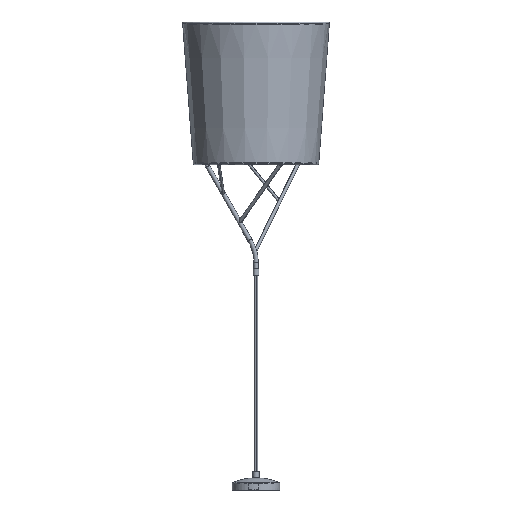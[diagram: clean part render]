
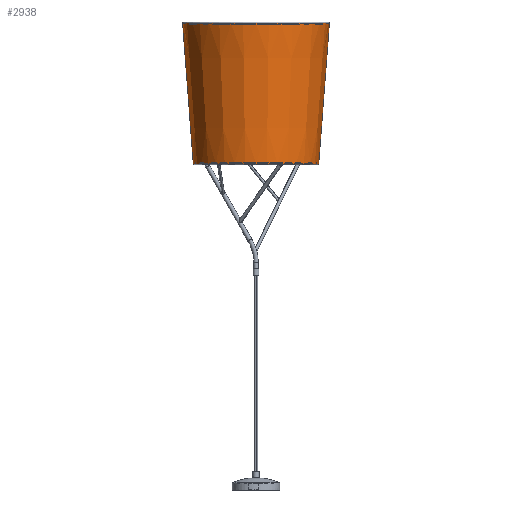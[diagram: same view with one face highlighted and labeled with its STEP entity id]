
A CAD part, left-side view. The second image highlights one B-rep face of the part: STEP entity #2938.
In plain terms, the highlighted conical face has half-angle 4.337 degrees and reference radius 147.635 mm.
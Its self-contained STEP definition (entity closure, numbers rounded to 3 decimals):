
#27=CONICAL_SURFACE('',#3267,147.635,0.076);
#430=FACE_OUTER_BOUND('',#632,.T.);
#632=EDGE_LOOP('',(#2571,#2572,#2573,#2574));
#786=CIRCLE('',#3261,145.174);
#788=CIRCLE('',#3265,169.778);
#973=LINE('',#7006,#1160);
#974=LINE('',#7007,#1161);
#1160=VECTOR('',#4058,304.8);
#1161=VECTOR('',#4059,304.8);
#1387=VERTEX_POINT('',#5904);
#1388=VERTEX_POINT('',#5905);
#1389=VERTEX_POINT('',#6452);
#1390=VERTEX_POINT('',#6727);
#1784=EDGE_CURVE('',#1388,#1387,#786,.T.);
#1788=EDGE_CURVE('',#1389,#1390,#788,.T.);
#1789=EDGE_CURVE('',#1387,#1389,#973,.T.);
#1790=EDGE_CURVE('',#1390,#1388,#974,.T.);
#2571=ORIENTED_EDGE('',*,*,#1788,.T.);
#2572=ORIENTED_EDGE('',*,*,#1790,.T.);
#2573=ORIENTED_EDGE('',*,*,#1784,.T.);
#2574=ORIENTED_EDGE('',*,*,#1789,.T.);
#2938=ADVANCED_FACE('',(#430),#27,.T.);
#3261=AXIS2_PLACEMENT_3D('',#6450,#4046,#4047);
#3265=AXIS2_PLACEMENT_3D('',#7004,#4054,#4055);
#3267=AXIS2_PLACEMENT_3D('',#7008,#4060,#4061);
#4046=DIRECTION('center_axis',(0.,0.,
1.));
#4047=DIRECTION('ref_axis',(-0.588,0.809,0.));
#4054=DIRECTION('center_axis',(0.,0.,
-1.));
#4055=DIRECTION('ref_axis',(-0.588,0.809,0.));
#4058=DIRECTION('',(0.,-0.076,0.997));
#4059=DIRECTION('',(0.,-0.076,-0.997));
#4060=DIRECTION('center_axis',(0.,0.,
1.));
#4061=DIRECTION('ref_axis',(-0.588,0.809,0.));
#5904=CARTESIAN_POINT('',(0.,-145.174,249.165));
#5905=CARTESIAN_POINT('',(0.,145.174,249.165));
#6450=CARTESIAN_POINT('Origin',(0.,0.,
249.165));
#6452=CARTESIAN_POINT('',(0.,-169.778,573.595));
#6727=CARTESIAN_POINT('',(0.,169.778,573.595));
#7004=CARTESIAN_POINT('Origin',(0.,0.,
573.595));
#7006=CARTESIAN_POINT('',(0.,-145.174,249.165));
#7007=CARTESIAN_POINT('',(0.,169.778,573.595));
#7008=CARTESIAN_POINT('Origin',(0.,0.,
281.608));
